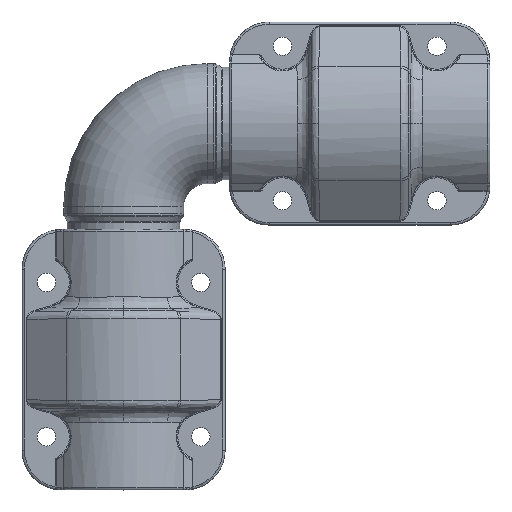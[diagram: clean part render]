
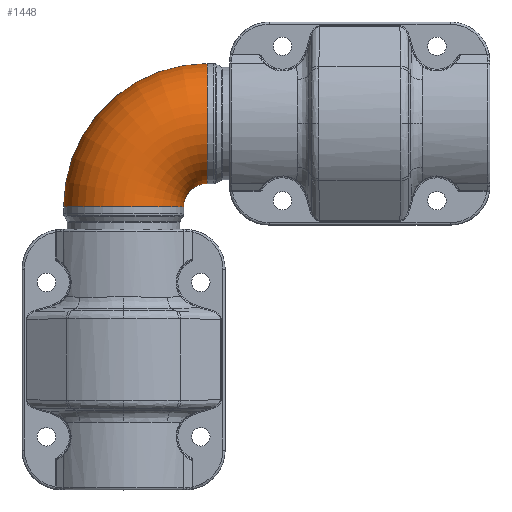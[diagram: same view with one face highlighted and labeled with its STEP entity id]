
A CAD part, top view. The second image highlights one B-rep face of the part: STEP entity #1448.
In plain terms, the highlighted toroidal (fillet/blend) face has major radius 18.9 mm and minor radius 13.6 mm.
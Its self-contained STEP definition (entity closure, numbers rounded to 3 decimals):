
#285=CARTESIAN_POINT('',(0.,-18.9,0.));
#286=DIRECTION('',(0.,-1.,0.));
#287=DIRECTION('',(1.,0.,0.));
#288=AXIS2_PLACEMENT_3D('',#285,#286,#287);
#293=CARTESIAN_POINT('',(0.,-18.9,0.));
#294=DIRECTION('',(0.,-1.,0.));
#295=DIRECTION('',(0.002,0.,1.));
#296=AXIS2_PLACEMENT_3D('',#293,#294,#295);
#301=CARTESIAN_POINT('',(18.9,0.,0.));
#302=DIRECTION('',(1.,0.,0.));
#303=DIRECTION('',(0.,1.,0.));
#304=AXIS2_PLACEMENT_3D('',#301,#302,#303);
#309=CARTESIAN_POINT('',(18.9,-18.9,0.));
#310=DIRECTION('',(0.,0.,1.));
#311=DIRECTION('',(0.,1.,0.));
#312=AXIS2_PLACEMENT_3D('',#309,#310,#311);
#341=CARTESIAN_POINT('',(18.9,-18.9,0.));
#342=DIRECTION('',(0.,0.,1.));
#343=DIRECTION('',(0.,1.,0.));
#344=AXIS2_PLACEMENT_3D('',#341,#342,#343);
#1117=CARTESIAN_POINT('',(13.6,-18.9,0.));
#1118=VERTEX_POINT('',#1117);
#1121=CARTESIAN_POINT('',(-13.6,-18.9,0.));
#1122=VERTEX_POINT('',#1121);
#1123=CARTESIAN_POINT('',(0.021,-18.9,13.6));
#1124=VERTEX_POINT('',#1123);
#1125=CARTESIAN_POINT('',(18.9,13.6,0.));
#1126=VERTEX_POINT('',#1125);
#1127=CARTESIAN_POINT('',(18.9,-13.6,0.));
#1128=VERTEX_POINT('',#1127);
#1433=CARTESIAN_POINT('',(18.9,-18.9,0.));
#1434=DIRECTION('',(0.,0.,1.));
#1435=DIRECTION('',(-1.,0.,0.));
#1436=AXIS2_PLACEMENT_3D('',#1433,#1434,#1435);
#1437=TOROIDAL_SURFACE('',#1436,18.9,13.6);
#1438=ORIENTED_EDGE('',*,*,#1415,.T.);
#1439=ORIENTED_EDGE('',*,*,#1413,.T.);
#1441=ORIENTED_EDGE('',*,*,#1440,.F.);
#1443=ORIENTED_EDGE('',*,*,#1442,.T.);
#1445=ORIENTED_EDGE('',*,*,#1444,.T.);
#1446=EDGE_LOOP('',(#1438,#1439,#1441,#1443,#1445));
#1447=FACE_OUTER_BOUND('',#1446,.F.);
#289=CIRCLE('',#288,13.6);
#297=CIRCLE('',#296,13.6);
#305=CIRCLE('',#304,13.6);
#313=CIRCLE('',#312,5.3);
#345=CIRCLE('',#344,32.5);
#1413=EDGE_CURVE('',#1124,#1122,#297,.T.);
#1415=EDGE_CURVE('',#1118,#1124,#289,.T.);
#1440=EDGE_CURVE('',#1126,#1122,#345,.T.);
#1442=EDGE_CURVE('',#1126,#1128,#305,.T.);
#1444=EDGE_CURVE('',#1128,#1118,#313,.T.);
#1448=ADVANCED_FACE('',(#1447),#1437,.T.);
